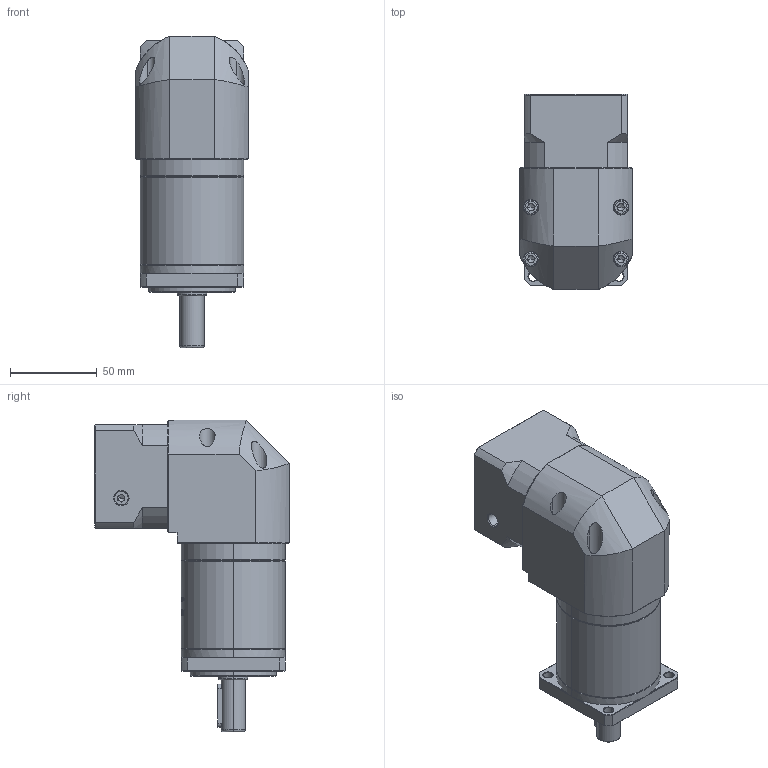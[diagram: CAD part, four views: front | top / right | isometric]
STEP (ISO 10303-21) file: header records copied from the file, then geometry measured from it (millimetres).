
FILE_DESCRIPTION (( 'STEP AP214' ), '1' );
FILE_NAME ('ZFR060-D14-L2-P2-8-30-46-M4.step', '2023-08-17T03:31:50', ( '' ), ( '' ), 'SwSTEP 2.0', 'SolidWorks 2016', '' );
FILE_SCHEMA (( 'AUTOMOTIVE_DESIGN' ));
Length unit declared in the file: millimetre
Products named in the file (1): ZFR060-D14-L2-P2-8-30-46-M4
Bounding box: 65 x 112.7 x 180 mm (x, y, z)
Volume: 593821.2 mm3; surface area: 83392.1 mm2
Topology: 5 solids, 6 shells, 1966 faces, 5288 edges, 3424 vertices
Faces by surface type: plane 845, bspline 418, cylinder 391, cone 286, torus 26
Entity records: 124125 total; most frequent: CARTESIAN_POINT 57870, ORIENTED_EDGE 10548, DIRECTION 7645, EDGE_CURVE 5274, VERTEX_POINT 3424, VECTOR 2591, LINE 2591, AXIS2_PLACEMENT_3D 2527
